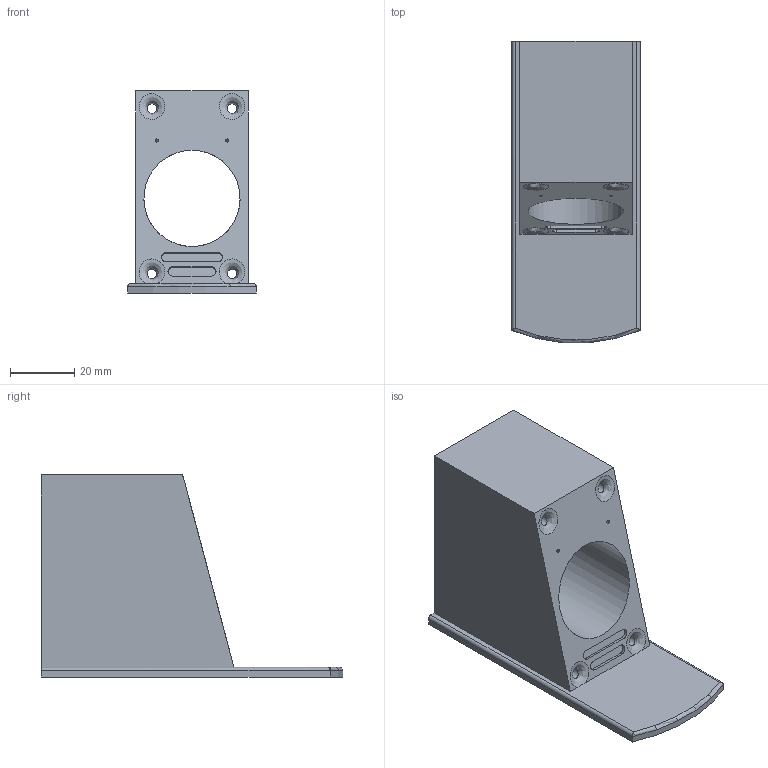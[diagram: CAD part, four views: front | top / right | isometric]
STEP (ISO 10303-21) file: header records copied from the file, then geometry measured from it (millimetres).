
FILE_DESCRIPTION(/* description */ ('STEP AP242','CAx-IF Rec.Pracs.---Representation and Presentation of Product Manufacturing Information (PMI)---4.0---2014-10-13','CAx-IF Rec.Pracs.---3D Tessellated Geometry---0.4---2014-09-14','2;1'),/* implementation_level */ '2;1');
FILE_NAME(/* name */ '6896546b081feb58de4bb113',/* time_stamp */ '2025-08-08T19:47:56Z',/* author */ (''),/* organization */ (''),/* preprocessor_version */ 'ST-DEVELOPER v20',/* originating_system */ 'ONSHAPE BY PTC INC, 1.202',/* authorisation */ ' ');
FILE_SCHEMA (('AP242_MANAGED_MODEL_BASED_3D_ENGINEERING_MIM_LF { 1 0 10303 442 1 1 4 }'));
Length unit declared in the file: metre
Products named in the file (1): Part 1
Bounding box: 40 x 93.84 x 63 mm (x, y, z)
Volume: 80947 mm3; surface area: 24192 mm2
Topology: 1 solids, 1 shells, 409 faces, 1140 edges, 758 vertices
Faces by surface type: bspline 214, plane 145, cylinder 49, torus 1
Full cylindrical faces by diameter (mm): 1 x2, 3 x4, 30 x1
Entity records: 13904 total; most frequent: CARTESIAN_POINT 4795, ORIENTED_EDGE 2254, DIRECTION 1196, EDGE_CURVE 1127, VERTEX_POINT 756, LINE 602, VECTOR 602, EDGE_LOOP 455
